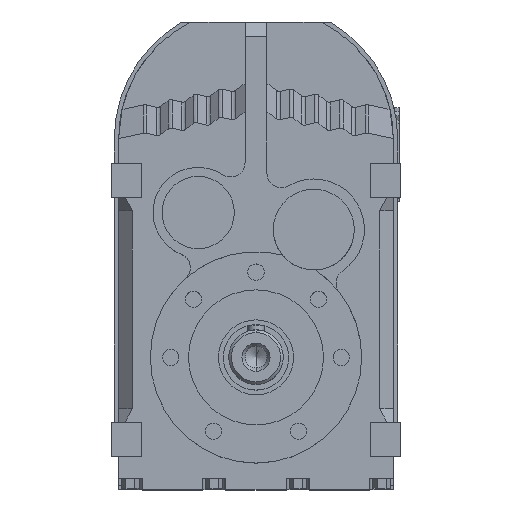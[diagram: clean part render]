
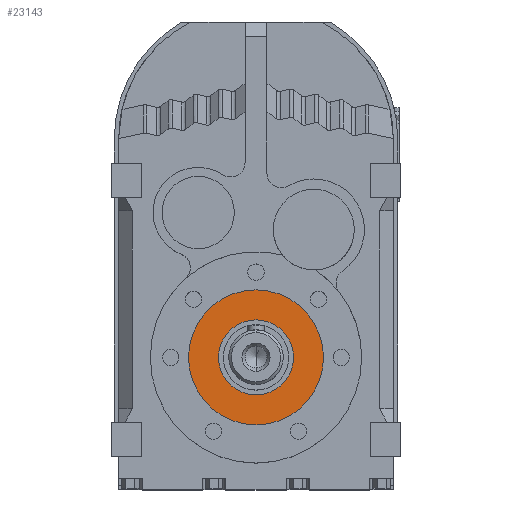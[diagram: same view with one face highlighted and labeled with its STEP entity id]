
A CAD part, top view. The second image highlights one B-rep face of the part: STEP entity #23143.
In plain terms, the highlighted planar face has unit normal (0, 0, 1).
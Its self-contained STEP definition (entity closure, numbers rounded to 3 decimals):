
#21538 = CYLINDRICAL_SURFACE('',#21539,49.5);
#21539 = AXIS2_PLACEMENT_3D('',#21540,#21541,#21542);
#21540 = CARTESIAN_POINT('',(0.,-159.5,110.123));
#21541 = DIRECTION('',(0.,0.,1.));
#21542 = DIRECTION('',(1.,0.,0.));
#21564 = CYLINDRICAL_SURFACE('',#21565,49.5);
#21565 = AXIS2_PLACEMENT_3D('',#21566,#21567,#21568);
#21566 = CARTESIAN_POINT('',(0.,-159.5,110.123));
#21567 = DIRECTION('',(0.,0.,1.));
#21568 = DIRECTION('',(1.,0.,0.));
#22023 = CYLINDRICAL_SURFACE('',#22024,27.5);
#22024 = AXIS2_PLACEMENT_3D('',#22025,#22026,#22027);
#22025 = CARTESIAN_POINT('',(0.,-159.5,110.123));
#22026 = DIRECTION('',(0.,0.,1.));
#22027 = DIRECTION('',(1.,0.,0.));
#22053 = CYLINDRICAL_SURFACE('',#22054,27.5);
#22054 = AXIS2_PLACEMENT_3D('',#22055,#22056,#22057);
#22055 = CARTESIAN_POINT('',(0.,-159.5,110.123));
#22056 = DIRECTION('',(0.,0.,1.));
#22057 = DIRECTION('',(1.,0.,0.));
#22243 = VERTEX_POINT('',#22244);
#22244 = CARTESIAN_POINT('',(-49.5,-159.5,156.));
#22265 = VERTEX_POINT('',#22266);
#22266 = CARTESIAN_POINT('',(49.5,-159.5,156.));
#22285 = EDGE_CURVE('',#22265,#22243,#22286,.T.);
#22286 = SURFACE_CURVE('',#22287,(#22292,#22298),.PCURVE_S1.);
#22287 = CIRCLE('',#22288,49.5);
#22288 = AXIS2_PLACEMENT_3D('',#22289,#22290,#22291);
#22289 = CARTESIAN_POINT('',(0.,-159.5,156.));
#22290 = DIRECTION('',(0.,0.,1.));
#22291 = DIRECTION('',(1.,0.,0.));
#22292 = PCURVE('',#21538,#22293);
#22293 = DEFINITIONAL_REPRESENTATION('',(#22294),#22297);
#22294 = B_SPLINE_CURVE_WITH_KNOTS('',1,(#22295,#22296),.UNSPECIFIED.,
  .F.,.F.,(2,2),(0.,3.142),.PIECEWISE_BEZIER_KNOTS.);
#22295 = CARTESIAN_POINT('',(0.,45.877));
#22296 = CARTESIAN_POINT('',(3.142,45.877));
#22297 = ( GEOMETRIC_REPRESENTATION_CONTEXT(2) 
PARAMETRIC_REPRESENTATION_CONTEXT() REPRESENTATION_CONTEXT('2D SPACE',''
  ) );
#22298 = PCURVE('',#22299,#22304);
#22299 = PLANE('',#22300);
#22300 = AXIS2_PLACEMENT_3D('',#22301,#22302,#22303);
#22301 = CARTESIAN_POINT('',(0.,-110.,156.));
#22302 = DIRECTION('',(0.,0.,1.));
#22303 = DIRECTION('',(1.,0.,0.));
#22304 = DEFINITIONAL_REPRESENTATION('',(#22305),#22309);
#22305 = CIRCLE('',#22306,49.5);
#22306 = AXIS2_PLACEMENT_2D('',#22307,#22308);
#22307 = CARTESIAN_POINT('',(0.,-49.5));
#22308 = DIRECTION('',(1.,0.));
#22309 = ( GEOMETRIC_REPRESENTATION_CONTEXT(2) 
PARAMETRIC_REPRESENTATION_CONTEXT() REPRESENTATION_CONTEXT('2D SPACE',''
  ) );
#22602 = EDGE_CURVE('',#22243,#22265,#22603,.T.);
#22603 = SURFACE_CURVE('',#22604,(#22609,#22615),.PCURVE_S1.);
#22604 = CIRCLE('',#22605,49.5);
#22605 = AXIS2_PLACEMENT_3D('',#22606,#22607,#22608);
#22606 = CARTESIAN_POINT('',(0.,-159.5,156.));
#22607 = DIRECTION('',(0.,0.,1.));
#22608 = DIRECTION('',(1.,0.,0.));
#22609 = PCURVE('',#21564,#22610);
#22610 = DEFINITIONAL_REPRESENTATION('',(#22611),#22614);
#22611 = B_SPLINE_CURVE_WITH_KNOTS('',1,(#22612,#22613),.UNSPECIFIED.,
  .F.,.F.,(2,2),(3.142,6.283),.PIECEWISE_BEZIER_KNOTS.);
#22612 = CARTESIAN_POINT('',(3.142,45.877));
#22613 = CARTESIAN_POINT('',(6.283,45.877));
#22614 = ( GEOMETRIC_REPRESENTATION_CONTEXT(2) 
PARAMETRIC_REPRESENTATION_CONTEXT() REPRESENTATION_CONTEXT('2D SPACE',''
  ) );
#22615 = PCURVE('',#22299,#22616);
#22616 = DEFINITIONAL_REPRESENTATION('',(#22617),#22621);
#22617 = CIRCLE('',#22618,49.5);
#22618 = AXIS2_PLACEMENT_2D('',#22619,#22620);
#22619 = CARTESIAN_POINT('',(0.,-49.5));
#22620 = DIRECTION('',(1.,0.));
#22621 = ( GEOMETRIC_REPRESENTATION_CONTEXT(2) 
PARAMETRIC_REPRESENTATION_CONTEXT() REPRESENTATION_CONTEXT('2D SPACE',''
  ) );
#23050 = VERTEX_POINT('',#23051);
#23051 = CARTESIAN_POINT('',(27.5,-159.5,156.));
#23070 = EDGE_CURVE('',#23071,#23050,#23073,.T.);
#23071 = VERTEX_POINT('',#23072);
#23072 = CARTESIAN_POINT('',(-27.5,-159.5,156.));
#23073 = SURFACE_CURVE('',#23074,(#23079,#23085),.PCURVE_S1.);
#23074 = CIRCLE('',#23075,27.5);
#23075 = AXIS2_PLACEMENT_3D('',#23076,#23077,#23078);
#23076 = CARTESIAN_POINT('',(0.,-159.5,156.));
#23077 = DIRECTION('',(0.,0.,1.));
#23078 = DIRECTION('',(1.,0.,0.));
#23079 = PCURVE('',#22053,#23080);
#23080 = DEFINITIONAL_REPRESENTATION('',(#23081),#23084);
#23081 = B_SPLINE_CURVE_WITH_KNOTS('',1,(#23082,#23083),.UNSPECIFIED.,
  .F.,.F.,(2,2),(3.142,6.283),.PIECEWISE_BEZIER_KNOTS.);
#23082 = CARTESIAN_POINT('',(3.142,45.877));
#23083 = CARTESIAN_POINT('',(6.283,45.877));
#23084 = ( GEOMETRIC_REPRESENTATION_CONTEXT(2) 
PARAMETRIC_REPRESENTATION_CONTEXT() REPRESENTATION_CONTEXT('2D SPACE',''
  ) );
#23085 = PCURVE('',#22299,#23086);
#23086 = DEFINITIONAL_REPRESENTATION('',(#23087),#23091);
#23087 = CIRCLE('',#23088,27.5);
#23088 = AXIS2_PLACEMENT_2D('',#23089,#23090);
#23089 = CARTESIAN_POINT('',(0.,-49.5));
#23090 = DIRECTION('',(1.,0.));
#23091 = ( GEOMETRIC_REPRESENTATION_CONTEXT(2) 
PARAMETRIC_REPRESENTATION_CONTEXT() REPRESENTATION_CONTEXT('2D SPACE',''
  ) );
#23116 = EDGE_CURVE('',#23050,#23071,#23117,.T.);
#23117 = SURFACE_CURVE('',#23118,(#23123,#23129),.PCURVE_S1.);
#23118 = CIRCLE('',#23119,27.5);
#23119 = AXIS2_PLACEMENT_3D('',#23120,#23121,#23122);
#23120 = CARTESIAN_POINT('',(0.,-159.5,156.));
#23121 = DIRECTION('',(0.,0.,1.));
#23122 = DIRECTION('',(1.,0.,0.));
#23123 = PCURVE('',#22023,#23124);
#23124 = DEFINITIONAL_REPRESENTATION('',(#23125),#23128);
#23125 = B_SPLINE_CURVE_WITH_KNOTS('',1,(#23126,#23127),.UNSPECIFIED.,
  .F.,.F.,(2,2),(0.,3.142),.PIECEWISE_BEZIER_KNOTS.);
#23126 = CARTESIAN_POINT('',(0.,45.877));
#23127 = CARTESIAN_POINT('',(3.142,45.877));
#23128 = ( GEOMETRIC_REPRESENTATION_CONTEXT(2) 
PARAMETRIC_REPRESENTATION_CONTEXT() REPRESENTATION_CONTEXT('2D SPACE',''
  ) );
#23129 = PCURVE('',#22299,#23130);
#23130 = DEFINITIONAL_REPRESENTATION('',(#23131),#23135);
#23131 = CIRCLE('',#23132,27.5);
#23132 = AXIS2_PLACEMENT_2D('',#23133,#23134);
#23133 = CARTESIAN_POINT('',(0.,-49.5));
#23134 = DIRECTION('',(1.,0.));
#23135 = ( GEOMETRIC_REPRESENTATION_CONTEXT(2) 
PARAMETRIC_REPRESENTATION_CONTEXT() REPRESENTATION_CONTEXT('2D SPACE',''
  ) );
#23143 = ADVANCED_FACE('',(#23144,#23148),#22299,.T.);
#23144 = FACE_BOUND('',#23145,.T.);
#23145 = EDGE_LOOP('',(#23146,#23147));
#23146 = ORIENTED_EDGE('',*,*,#22285,.T.);
#23147 = ORIENTED_EDGE('',*,*,#22602,.T.);
#23148 = FACE_BOUND('',#23149,.T.);
#23149 = EDGE_LOOP('',(#23150,#23151));
#23150 = ORIENTED_EDGE('',*,*,#23116,.F.);
#23151 = ORIENTED_EDGE('',*,*,#23070,.F.);
